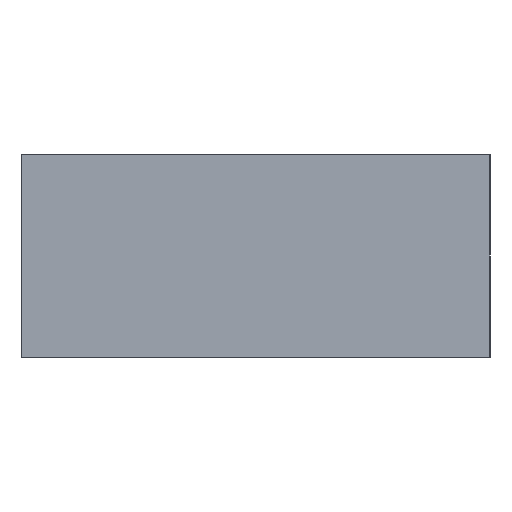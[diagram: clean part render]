
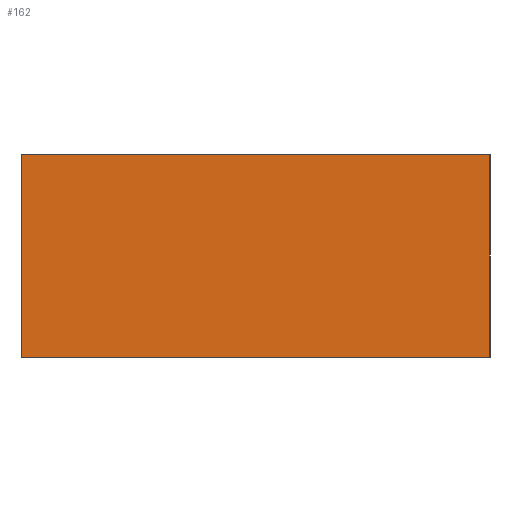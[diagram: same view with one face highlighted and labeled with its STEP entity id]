
A CAD part, left-side view. The second image highlights one B-rep face of the part: STEP entity #162.
In plain terms, the highlighted planar face has unit normal (-1, 0, 0).
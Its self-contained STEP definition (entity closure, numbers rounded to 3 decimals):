
#16=FACE_OUTER_BOUND('',#25,.T.);
#25=EDGE_LOOP('',(#113,#114,#115,#116));
#36=LINE('',#254,#57);
#37=LINE('',#256,#58);
#38=LINE('',#258,#59);
#39=LINE('',#259,#60);
#57=VECTOR('',#211,10.);
#58=VECTOR('',#212,10.);
#59=VECTOR('',#213,10.);
#60=VECTOR('',#214,10.);
#78=VERTEX_POINT('',#252);
#79=VERTEX_POINT('',#253);
#80=VERTEX_POINT('',#255);
#81=VERTEX_POINT('',#257);
#92=EDGE_CURVE('',#78,#79,#36,.T.);
#93=EDGE_CURVE('',#79,#80,#37,.T.);
#94=EDGE_CURVE('',#80,#81,#38,.T.);
#95=EDGE_CURVE('',#81,#78,#39,.T.);
#113=ORIENTED_EDGE('',*,*,#92,.T.);
#114=ORIENTED_EDGE('',*,*,#93,.T.);
#115=ORIENTED_EDGE('',*,*,#94,.T.);
#116=ORIENTED_EDGE('',*,*,#95,.T.);
#153=PLANE('',#194);
#162=ADVANCED_FACE('',(#16),#153,.T.);
#194=AXIS2_PLACEMENT_3D('',#251,#209,#210);
#209=DIRECTION('center_axis',(-1.,0.,0.));
#210=DIRECTION('ref_axis',(0.,0.,1.));
#211=DIRECTION('',(0.,0.,1.));
#212=DIRECTION('',(0.,1.,0.));
#213=DIRECTION('',(0.,0.,-1.));
#214=DIRECTION('',(0.,-1.,0.));
#251=CARTESIAN_POINT('Origin',(-30.,-0.174,6.5));
#252=CARTESIAN_POINT('',(-30.,-15.174,0.));
#253=CARTESIAN_POINT('',(-30.,-15.174,13.));
#254=CARTESIAN_POINT('',(-30.,-15.174,13.));
#255=CARTESIAN_POINT('',(-30.,14.826,13.));
#256=CARTESIAN_POINT('',(-30.,14.826,13.));
#257=CARTESIAN_POINT('',(-30.,14.826,0.));
#258=CARTESIAN_POINT('',(-30.,14.826,0.));
#259=CARTESIAN_POINT('',(-30.,-15.174,0.));
